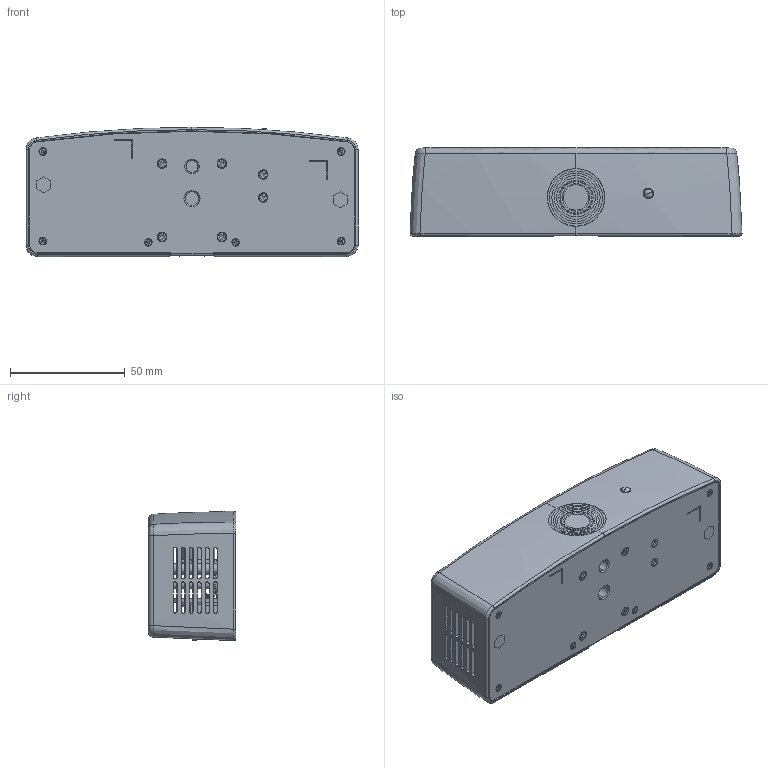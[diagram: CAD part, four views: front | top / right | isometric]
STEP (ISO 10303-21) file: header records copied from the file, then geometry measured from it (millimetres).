
FILE_DESCRIPTION (( 'STEP AP203' ), '1' );
FILE_NAME ('000-Assy-Body-BC-200-2024-0819.STEP', '2024-08-19T07:06:51', ( '' ), ( '' ), 'SwSTEP 2.0', 'SolidWorks 2020', '' );
FILE_SCHEMA (( 'CONFIG_CONTROL_DESIGN' ));
Length unit declared in the file: millimetre
Products named in the file (25): 4700259-M2-L5; LEAD-30FQ; pcb-sensor-fixed-lens-BC-200; Lens-TZX2027; press-base-BC-200; 3009-XX04-L-1; pcba-sensor-fixed-lens-BC-200-FAE; SENSOR-IMX327; 76084-021-1; TZX2027 with holder for lumens; 5237-881X-D-LF-1; Body-BC-200; 4700255-td2x5D5; 76257-005-1; 3009-XX04-R-1; 9687-881x-s0lf-f-im_asm-1221; pcba-rj45-stand-Left-FAE; TZX2027-Lens-holder; pcb-rj45-stand-Left; 4pin-2pitch-st-dip; 8351-8202N-1; 006844731002-03pitch-31-right; press-support-pcba-double; 03pitch-29pin-0628; 000-Assy-Body-BC-200-2024-0819
Assembly tree (35 placements, depth 4):
  000-Assy-Body-BC-200-2024-0819
    Body-BC-200
    pcba-sensor-fixed-lens-BC-200-FAE
      pcb-sensor-fixed-lens-BC-200
      SENSOR-IMX327
      006844731002-03pitch-31-right
      TZX2027-Lens-holder
        Lens-TZX2027
        TZX2027 with holder for lumens
    press-base-BC-200
    press-support-pcba-double  x2
    LEAD-30FQ
    pcba-rj45-stand-Left-FAE
      pcb-rj45-stand-Left
      9687-881x-s0lf-f-im_asm-1221
        3009-XX04-L-1
        3009-XX04-R-1
        5237-881X-D-LF-1
        76084-021-1
        76257-005-1
        8351-8202N-1
      4pin-2pitch-st-dip
      03pitch-29pin-0628
    4700255-td2x5D5  x6
    4700259-M2-L5  x6
Bounding box: 144.39 x 38.2 x 56.22 mm (x, y, z)
Volume: 71568.2 mm3; surface area: 81808.3 mm2
Topology: 30 solids, 31 shells, 3420 faces, 9509 edges, 6212 vertices
Faces by surface type: plane 2231, cylinder 734, cone 248, torus 108, bspline 92, sphere 7
Entity records: 114124 total; most frequent: CARTESIAN_POINT 36387, ORIENTED_EDGE 17460, DIRECTION 12820, EDGE_CURVE 8730, VERTEX_POINT 5736, LINE 4362, VECTOR 4362, AXIS2_PLACEMENT_3D 4229
